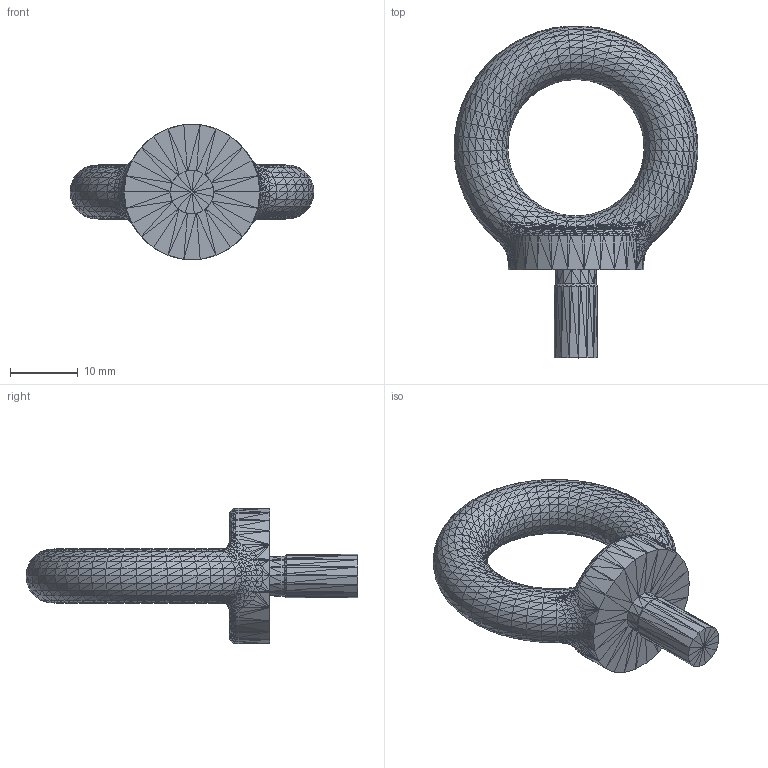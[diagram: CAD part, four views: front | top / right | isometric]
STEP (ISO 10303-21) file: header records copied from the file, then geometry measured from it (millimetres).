
FILE_DESCRIPTION((''),'2;1');
FILE_NAME('002038', '2025-08-05T07:36:38', (''), (''), 'ImageToStl.com STEP Converter','', '');
FILE_SCHEMA(('AUTOMOTIVE_DESIGN_CC2'));
Length unit declared in the file: metre
Products named in the file (1): product0
Bounding box: 35.98 x 48.96 x 19.93 mm (x, y, z)
Surface area: 2964.9 mm2 (no closed solid volume)
Topology: 0 solids, 3324 shells, 3324 faces, 9972 edges, 1662 vertices
Faces by surface type: plane 3324
Entity records: 76480 total; most frequent: DIRECTION 16622, ORIENTED_EDGE 9972, EDGE_CURVE 9972, LINE 9972, VECTOR 9972, AXIS2_PLACEMENT_3D 3325, FACE_SURFACE 3324, PLANE 3324
